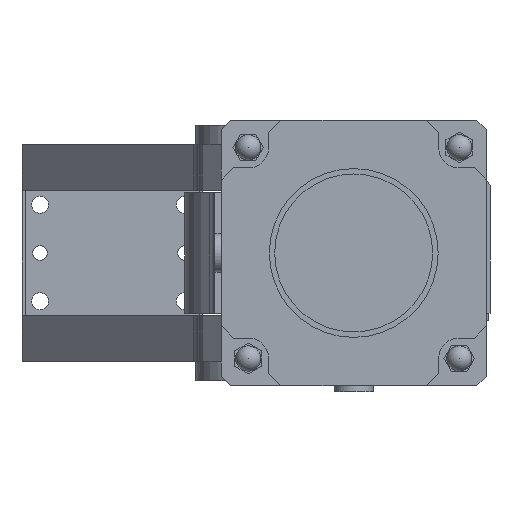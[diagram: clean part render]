
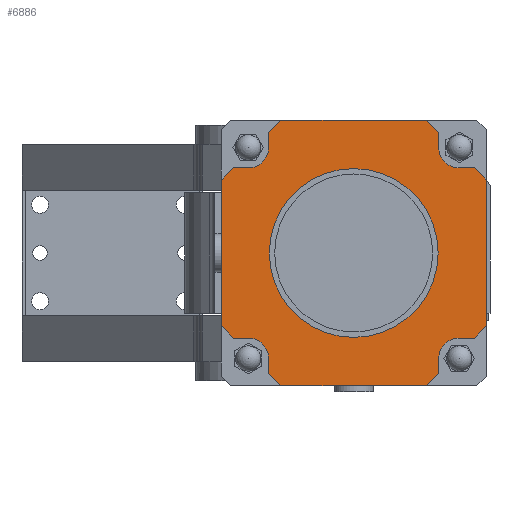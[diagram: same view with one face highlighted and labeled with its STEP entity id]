
A CAD part, front view. The second image highlights one B-rep face of the part: STEP entity #6886.
In plain terms, the highlighted planar face has unit normal (0, -1, 0).
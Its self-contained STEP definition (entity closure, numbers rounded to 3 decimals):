
#351=LINE('',#10845,#1059);
#352=LINE('',#10847,#1060);
#353=LINE('',#10849,#1061);
#354=LINE('',#10853,#1062);
#355=LINE('',#10855,#1063);
#356=LINE('',#10857,#1064);
#357=LINE('',#10859,#1065);
#358=LINE('',#10861,#1066);
#359=LINE('',#10865,#1067);
#360=LINE('',#10867,#1068);
#361=LINE('',#10869,#1069);
#362=LINE('',#10871,#1070);
#363=LINE('',#10873,#1071);
#364=LINE('',#10877,#1072);
#365=LINE('',#10879,#1073);
#366=LINE('',#10881,#1074);
#367=LINE('',#10883,#1075);
#368=LINE('',#10885,#1076);
#369=LINE('',#10889,#1077);
#370=LINE('',#10890,#1078);
#1059=VECTOR('',#8770,1000.);
#1060=VECTOR('',#8771,1000.);
#1061=VECTOR('',#8772,1000.);
#1062=VECTOR('',#8775,1000.);
#1063=VECTOR('',#8776,1000.);
#1064=VECTOR('',#8777,1000.);
#1065=VECTOR('',#8778,1000.);
#1066=VECTOR('',#8779,1000.);
#1067=VECTOR('',#8782,1000.);
#1068=VECTOR('',#8783,1000.);
#1069=VECTOR('',#8784,1000.);
#1070=VECTOR('',#8785,1000.);
#1071=VECTOR('',#8786,1000.);
#1072=VECTOR('',#8789,1000.);
#1073=VECTOR('',#8790,1000.);
#1074=VECTOR('',#8791,1000.);
#1075=VECTOR('',#8792,1000.);
#1076=VECTOR('',#8793,1000.);
#1077=VECTOR('',#8796,1000.);
#1078=VECTOR('',#8797,1000.);
#1592=PLANE('',#7601);
#1896=FACE_BOUND('',#2616,.T.);
#2118=FACE_OUTER_BOUND('',#2615,.T.);
#2615=EDGE_LOOP('',(#5368,#5369,#5370,#5371,#5372,#5373,#5374,#5375,#5376,
#5377,#5378,#5379,#5380,#5381,#5382,#5383,#5384,#5385,#5386,#5387,#5388,
#5389,#5390,#5391));
#2616=EDGE_LOOP('',(#5392));
#3054=CIRCLE('',#7583,70.);
#3061=CIRCLE('',#7602,17.);
#3062=CIRCLE('',#7603,17.);
#3063=CIRCLE('',#7604,17.);
#3064=CIRCLE('',#7605,17.);
#3386=VERTEX_POINT('',#10649);
#3477=VERTEX_POINT('',#10843);
#3478=VERTEX_POINT('',#10844);
#3479=VERTEX_POINT('',#10846);
#3480=VERTEX_POINT('',#10848);
#3481=VERTEX_POINT('',#10850);
#3482=VERTEX_POINT('',#10852);
#3483=VERTEX_POINT('',#10854);
#3484=VERTEX_POINT('',#10856);
#3485=VERTEX_POINT('',#10858);
#3486=VERTEX_POINT('',#10860);
#3487=VERTEX_POINT('',#10862);
#3488=VERTEX_POINT('',#10864);
#3489=VERTEX_POINT('',#10866);
#3490=VERTEX_POINT('',#10868);
#3491=VERTEX_POINT('',#10870);
#3492=VERTEX_POINT('',#10872);
#3493=VERTEX_POINT('',#10874);
#3494=VERTEX_POINT('',#10876);
#3495=VERTEX_POINT('',#10878);
#3496=VERTEX_POINT('',#10880);
#3497=VERTEX_POINT('',#10882);
#3498=VERTEX_POINT('',#10884);
#3499=VERTEX_POINT('',#10886);
#3500=VERTEX_POINT('',#10888);
#4106=EDGE_CURVE('',#3386,#3386,#3054,.T.);
#4197=EDGE_CURVE('',#3477,#3478,#351,.T.);
#4198=EDGE_CURVE('',#3479,#3478,#352,.T.);
#4199=EDGE_CURVE('',#3480,#3479,#353,.T.);
#4200=EDGE_CURVE('',#3481,#3480,#3061,.T.);
#4201=EDGE_CURVE('',#3482,#3481,#354,.T.);
#4202=EDGE_CURVE('',#3483,#3482,#355,.T.);
#4203=EDGE_CURVE('',#3483,#3484,#356,.T.);
#4204=EDGE_CURVE('',#3485,#3484,#357,.T.);
#4205=EDGE_CURVE('',#3486,#3485,#358,.T.);
#4206=EDGE_CURVE('',#3487,#3486,#3062,.T.);
#4207=EDGE_CURVE('',#3488,#3487,#359,.T.);
#4208=EDGE_CURVE('',#3489,#3488,#360,.T.);
#4209=EDGE_CURVE('',#3489,#3490,#361,.T.);
#4210=EDGE_CURVE('',#3491,#3490,#362,.T.);
#4211=EDGE_CURVE('',#3492,#3491,#363,.T.);
#4212=EDGE_CURVE('',#3493,#3492,#3063,.T.);
#4213=EDGE_CURVE('',#3494,#3493,#364,.T.);
#4214=EDGE_CURVE('',#3495,#3494,#365,.T.);
#4215=EDGE_CURVE('',#3495,#3496,#366,.T.);
#4216=EDGE_CURVE('',#3497,#3496,#367,.T.);
#4217=EDGE_CURVE('',#3498,#3497,#368,.T.);
#4218=EDGE_CURVE('',#3499,#3498,#3064,.T.);
#4219=EDGE_CURVE('',#3500,#3499,#369,.T.);
#4220=EDGE_CURVE('',#3477,#3500,#370,.T.);
#5368=ORIENTED_EDGE('',*,*,#4197,.T.);
#5369=ORIENTED_EDGE('',*,*,#4198,.F.);
#5370=ORIENTED_EDGE('',*,*,#4199,.F.);
#5371=ORIENTED_EDGE('',*,*,#4200,.F.);
#5372=ORIENTED_EDGE('',*,*,#4201,.F.);
#5373=ORIENTED_EDGE('',*,*,#4202,.F.);
#5374=ORIENTED_EDGE('',*,*,#4203,.T.);
#5375=ORIENTED_EDGE('',*,*,#4204,.F.);
#5376=ORIENTED_EDGE('',*,*,#4205,.F.);
#5377=ORIENTED_EDGE('',*,*,#4206,.F.);
#5378=ORIENTED_EDGE('',*,*,#4207,.F.);
#5379=ORIENTED_EDGE('',*,*,#4208,.F.);
#5380=ORIENTED_EDGE('',*,*,#4209,.T.);
#5381=ORIENTED_EDGE('',*,*,#4210,.F.);
#5382=ORIENTED_EDGE('',*,*,#4211,.F.);
#5383=ORIENTED_EDGE('',*,*,#4212,.F.);
#5384=ORIENTED_EDGE('',*,*,#4213,.F.);
#5385=ORIENTED_EDGE('',*,*,#4214,.F.);
#5386=ORIENTED_EDGE('',*,*,#4215,.T.);
#5387=ORIENTED_EDGE('',*,*,#4216,.F.);
#5388=ORIENTED_EDGE('',*,*,#4217,.F.);
#5389=ORIENTED_EDGE('',*,*,#4218,.F.);
#5390=ORIENTED_EDGE('',*,*,#4219,.F.);
#5391=ORIENTED_EDGE('',*,*,#4220,.F.);
#5392=ORIENTED_EDGE('',*,*,#4106,.F.);
#6886=ADVANCED_FACE('',(#2118,#1896),#1592,.F.);
#7583=AXIS2_PLACEMENT_3D('',#10650,#8648,#8649);
#7601=AXIS2_PLACEMENT_3D('',#10842,#8768,#8769);
#7602=AXIS2_PLACEMENT_3D('',#10851,#8773,#8774);
#7603=AXIS2_PLACEMENT_3D('',#10863,#8780,#8781);
#7604=AXIS2_PLACEMENT_3D('',#10875,#8787,#8788);
#7605=AXIS2_PLACEMENT_3D('',#10887,#8794,#8795);
#8648=DIRECTION('center_axis',(0.,-1.,0.));
#8649=DIRECTION('ref_axis',(0.,0.,1.));
#8768=DIRECTION('center_axis',(0.,1.,0.));
#8769=DIRECTION('ref_axis',(0.,0.,1.));
#8770=DIRECTION('',(0.,0.,-1.));
#8771=DIRECTION('',(-0.707,0.,0.707));
#8772=DIRECTION('',(-1.,0.,0.));
#8773=DIRECTION('center_axis',(0.,-1.,0.));
#8774=DIRECTION('ref_axis',(1.,0.,0.));
#8775=DIRECTION('',(0.,0.,1.));
#8776=DIRECTION('',(-0.707,0.,0.707));
#8777=DIRECTION('',(1.,0.,0.));
#8778=DIRECTION('',(-0.707,0.,-0.707));
#8779=DIRECTION('',(0.,0.,-1.));
#8780=DIRECTION('center_axis',(0.,-1.,0.));
#8781=DIRECTION('ref_axis',(0.,0.,1.));
#8782=DIRECTION('',(-1.,0.,0.));
#8783=DIRECTION('',(-0.707,0.,-0.707));
#8784=DIRECTION('',(0.,0.,1.));
#8785=DIRECTION('',(0.707,0.,-0.707));
#8786=DIRECTION('',(1.,0.,0.));
#8787=DIRECTION('center_axis',(0.,-1.,0.));
#8788=DIRECTION('ref_axis',(-1.,0.,0.));
#8789=DIRECTION('',(0.,0.,-1.));
#8790=DIRECTION('',(0.707,0.,-0.707));
#8791=DIRECTION('',(-1.,0.,0.));
#8792=DIRECTION('',(0.707,0.,0.707));
#8793=DIRECTION('',(0.,0.,1.));
#8794=DIRECTION('center_axis',(0.,-1.,0.));
#8795=DIRECTION('ref_axis',(0.,0.,-1.));
#8796=DIRECTION('',(1.,0.,0.));
#8797=DIRECTION('',(0.707,0.,0.707));
#10649=CARTESIAN_POINT('',(80.,-611.,70.));
#10650=CARTESIAN_POINT('Origin',(80.,-611.,0.));
#10842=CARTESIAN_POINT('Origin',(80.,-611.,0.));
#10843=CARTESIAN_POINT('',(-30.,-611.,60.5));
#10844=CARTESIAN_POINT('',(-30.,-611.,-60.5));
#10845=CARTESIAN_POINT('',(-30.,-611.,102.));
#10846=CARTESIAN_POINT('',(-20.,-611.,-70.5));
#10847=CARTESIAN_POINT('',(-30.,-611.,-60.5));
#10848=CARTESIAN_POINT('',(-7.5,-611.,-70.5));
#10849=CARTESIAN_POINT('',(-20.,-611.,-70.5));
#10850=CARTESIAN_POINT('',(9.5,-611.,-87.5));
#10851=CARTESIAN_POINT('Origin',(-7.5,-611.,-87.5));
#10852=CARTESIAN_POINT('',(9.5,-611.,-100.));
#10853=CARTESIAN_POINT('',(9.5,-611.,-87.5));
#10854=CARTESIAN_POINT('',(19.5,-611.,-110.));
#10855=CARTESIAN_POINT('',(9.5,-611.,-100.));
#10856=CARTESIAN_POINT('',(140.5,-611.,-110.));
#10857=CARTESIAN_POINT('',(-22.,-611.,-110.));
#10858=CARTESIAN_POINT('',(150.5,-611.,-100.));
#10859=CARTESIAN_POINT('',(140.5,-611.,-110.));
#10860=CARTESIAN_POINT('',(150.5,-611.,-87.5));
#10861=CARTESIAN_POINT('',(150.5,-611.,-100.));
#10862=CARTESIAN_POINT('',(167.5,-611.,-70.5));
#10863=CARTESIAN_POINT('Origin',(167.5,-611.,-87.5));
#10864=CARTESIAN_POINT('',(180.,-611.,-70.5));
#10865=CARTESIAN_POINT('',(167.5,-611.,-70.5));
#10866=CARTESIAN_POINT('',(190.,-611.,-60.5));
#10867=CARTESIAN_POINT('',(180.,-611.,-70.5));
#10868=CARTESIAN_POINT('',(190.,-611.,60.5));
#10869=CARTESIAN_POINT('',(190.,-611.,102.));
#10870=CARTESIAN_POINT('',(180.,-611.,70.5));
#10871=CARTESIAN_POINT('',(190.,-611.,60.5));
#10872=CARTESIAN_POINT('',(167.5,-611.,70.5));
#10873=CARTESIAN_POINT('',(180.,-611.,70.5));
#10874=CARTESIAN_POINT('',(150.5,-611.,87.5));
#10875=CARTESIAN_POINT('Origin',(167.5,-611.,87.5));
#10876=CARTESIAN_POINT('',(150.5,-611.,100.));
#10877=CARTESIAN_POINT('',(150.5,-611.,87.5));
#10878=CARTESIAN_POINT('',(140.5,-611.,110.));
#10879=CARTESIAN_POINT('',(150.5,-611.,100.));
#10880=CARTESIAN_POINT('',(19.5,-611.,110.));
#10881=CARTESIAN_POINT('',(-22.,-611.,110.));
#10882=CARTESIAN_POINT('',(9.5,-611.,100.));
#10883=CARTESIAN_POINT('',(19.5,-611.,110.));
#10884=CARTESIAN_POINT('',(9.5,-611.,87.5));
#10885=CARTESIAN_POINT('',(9.5,-611.,100.));
#10886=CARTESIAN_POINT('',(-7.5,-611.,70.5));
#10887=CARTESIAN_POINT('Origin',(-7.5,-611.,87.5));
#10888=CARTESIAN_POINT('',(-20.,-611.,70.5));
#10889=CARTESIAN_POINT('',(-7.5,-611.,70.5));
#10890=CARTESIAN_POINT('',(-20.,-611.,70.5));
